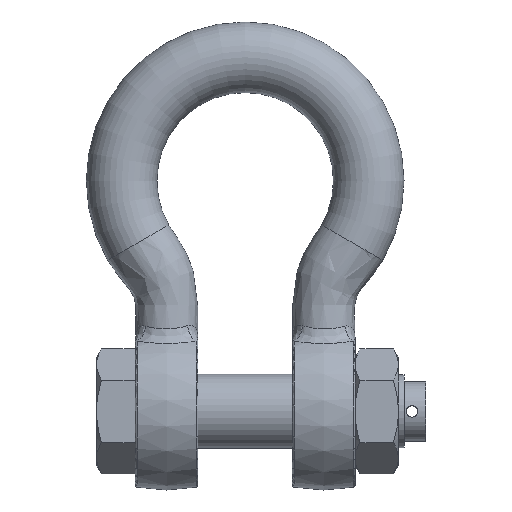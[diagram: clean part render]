
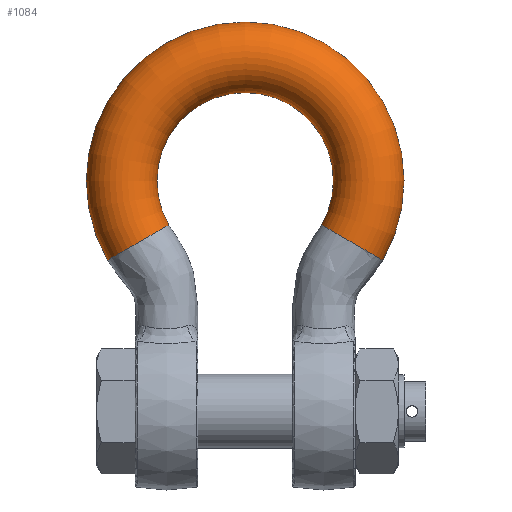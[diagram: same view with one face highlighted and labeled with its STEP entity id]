
A CAD part, top view. The second image highlights one B-rep face of the part: STEP entity #1084.
In plain terms, the highlighted toroidal (fillet/blend) face has major radius 108.5 mm and minor radius 31 mm.
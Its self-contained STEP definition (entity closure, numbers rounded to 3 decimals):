
#127=TOROIDAL_SURFACE('',#1235,108.5,31.);
#195=FACE_OUTER_BOUND('',#268,.T.);
#268=EDGE_LOOP('',(#855,#856,#857,#858,#859,#860));
#410=CIRCLE('',#1236,31.);
#411=CIRCLE('',#1237,31.);
#412=CIRCLE('',#1238,77.5);
#413=CIRCLE('',#1239,31.);
#414=CIRCLE('',#1240,31.);
#491=VERTEX_POINT('',#3483);
#492=VERTEX_POINT('',#3484);
#493=VERTEX_POINT('',#3487);
#494=VERTEX_POINT('',#3489);
#620=EDGE_CURVE('',#491,#492,#410,.T.);
#621=EDGE_CURVE('',#492,#491,#411,.T.);
#622=EDGE_CURVE('',#492,#493,#412,.T.);
#623=EDGE_CURVE('',#493,#494,#413,.T.);
#624=EDGE_CURVE('',#494,#493,#414,.T.);
#855=ORIENTED_EDGE('',*,*,#620,.F.);
#856=ORIENTED_EDGE('',*,*,#621,.F.);
#857=ORIENTED_EDGE('',*,*,#622,.T.);
#858=ORIENTED_EDGE('',*,*,#623,.T.);
#859=ORIENTED_EDGE('',*,*,#624,.T.);
#860=ORIENTED_EDGE('',*,*,#622,.F.);
#1084=ADVANCED_FACE('',(#195),#127,.T.);
#1235=AXIS2_PLACEMENT_3D('',#3482,#1422,#1423);
#1236=AXIS2_PLACEMENT_3D('',#3485,#1424,#1425);
#1237=AXIS2_PLACEMENT_3D('',#3486,#1426,#1427);
#1238=AXIS2_PLACEMENT_3D('',#3488,#1428,#1429);
#1239=AXIS2_PLACEMENT_3D('',#3490,#1430,#1431);
#1240=AXIS2_PLACEMENT_3D('',#3491,#1432,#1433);
#1422=DIRECTION('center_axis',(0.,0.,1.));
#1423=DIRECTION('ref_axis',(0.,1.,0.));
#1424=DIRECTION('center_axis',(0.5,-0.866,0.));
#1425=DIRECTION('ref_axis',(-0.866,-0.5,0.));
#1426=DIRECTION('center_axis',(0.5,-0.866,0.));
#1427=DIRECTION('ref_axis',(-0.866,-0.5,0.));
#1428=DIRECTION('center_axis',(0.,0.,-1.));
#1429=DIRECTION('ref_axis',(0.,1.,0.));
#1430=DIRECTION('center_axis',(0.5,0.866,0.));
#1431=DIRECTION('ref_axis',(0.866,-0.5,0.));
#1432=DIRECTION('center_axis',(0.5,0.866,0.));
#1433=DIRECTION('ref_axis',(0.866,-0.5,0.));
#3482=CARTESIAN_POINT('Origin',(0.,202.5,0.));
#3483=CARTESIAN_POINT('',(-120.811,132.75,0.));
#3484=CARTESIAN_POINT('',(-67.117,163.75,0.));
#3485=CARTESIAN_POINT('Origin',(-93.964,148.25,0.));
#3486=CARTESIAN_POINT('Origin',(-93.964,148.25,0.));
#3487=CARTESIAN_POINT('',(67.117,163.75,0.));
#3488=CARTESIAN_POINT('Origin',(0.,202.5,0.));
#3489=CARTESIAN_POINT('',(120.811,132.75,0.));
#3490=CARTESIAN_POINT('Origin',(93.964,148.25,0.));
#3491=CARTESIAN_POINT('Origin',(93.964,148.25,0.));
